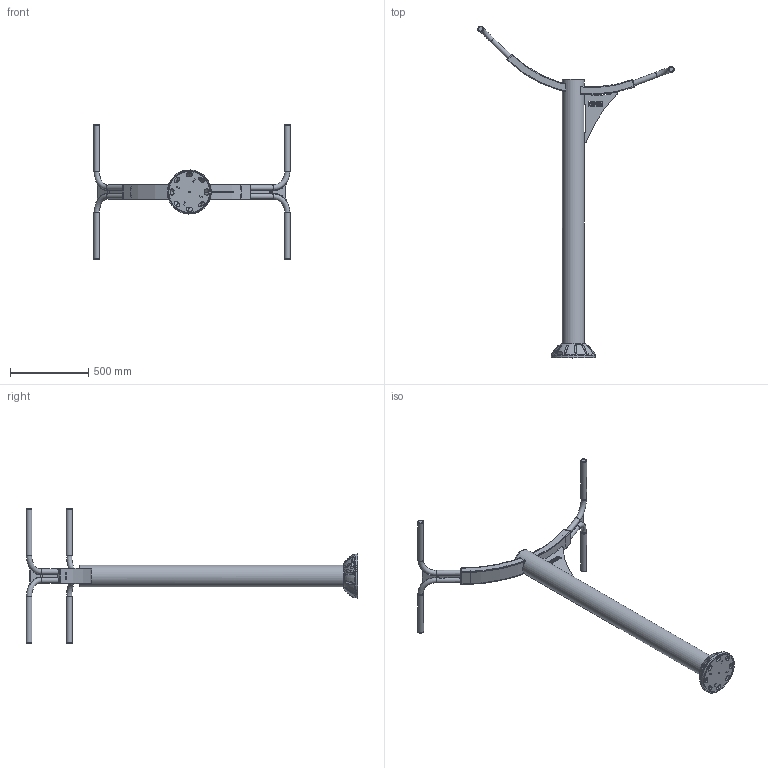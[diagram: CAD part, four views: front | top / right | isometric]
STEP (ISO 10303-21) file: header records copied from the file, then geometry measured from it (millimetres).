
FILE_DESCRIPTION (( 'STEP AP214' ), '1' );
FILE_NAME ('M0307A - TRACTION BRAS DOUBLE V2.1.STEP', '2017-03-02T22:04:56', ( '' ), ( '' ), 'SwSTEP 2.0', 'SolidWorks 2016', '' );
FILE_SCHEMA (( 'AUTOMOTIVE_DESIGN' ));
Length unit declared in the file: millimetre
Products named in the file (18): PU-TRETRAV873 - Tube rectangulaire cintré R750 100x50x3 L873 V1.0_Traction bras double; PU-TDRPOI.A - Tole renfort poignées traction bras V2.0; PU-TDRFIT225 - Tole renfort tube rectangulaire cintré R750 V1.0; PU-TOLGOPL - Gousset platine V2.0; PU-TROCP - Tube cintré poignée d33,7 RM100 90° V1.0; TROCOB-M0307A.B - Colonne base Traction Bras Double L1760 V2.1_Colonne base Duo traction bras double; SC0304 - CACHE PLATINE ASS V4.0; SCH1806.A - Chapeau D135 V1.0; TDRENT-M0307 - Entretoise placement tubes Traction Bras V1.0; SB0112 - Vis Torx teton central M8x20_M8x20; SC0304 - Demi cache platine D140 V4.0; PLATINE BASE ASS V2.0_RAL7012; SP0607 - Poignee plastique D.33,7 L=300; PU-TOLPLAT - Platine base V1.0; BATI-M0307A - TRACTION BRAS DOUBLE V2.1; M0307A - TRACTION BRAS DOUBLE V2.1; SCH1804 - Chapeau 97x47 2 trous D34,7 V1.0; ENSPOI-M0307 - POIGNEES TRACTION BRAS ASS V1.0
Assembly tree (26 placements, depth 4):
  M0307A - TRACTION BRAS DOUBLE V2.1
    BATI-M0307A - TRACTION BRAS DOUBLE V2.1
      TROCOB-M0307A.B - Colonne base Traction Bras Double L1760 V2.1_Colonne base Duo traction bras double
      SCH1806.A - Chapeau D135 V1.0
      ENSPOI-M0307 - POIGNEES TRACTION BRAS ASS V1.0  x2
        PU-TROCP - Tube cintré poignée d33,7 RM100 90° V1.0
        PU-TDRPOI.A - Tole renfort poignées traction bras V2.0
        SCH1804 - Chapeau 97x47 2 trous D34,7 V1.0
        TDRENT-M0307 - Entretoise placement tubes Traction Bras V1.0
      PU-TDRFIT225 - Tole renfort tube rectangulaire cintré R750 V1.0
      PLATINE BASE ASS V2.0_RAL7012
        PU-TOLPLAT - Platine base V1.0
        PU-TOLGOPL - Gousset platine V2.0  x4
      PU-TRETRAV873 - Tube rectangulaire cintré R750 100x50x3 L873 V1.0_Traction bras double
    SP0607 - Poignee plastique D.33,7 L=300  x4
    SC0304 - CACHE PLATINE ASS V4.0
      SC0304 - Demi cache platine D140 V4.0
      SB0112 - Vis Torx teton central M8x20_M8x20  x2
Bounding box: 1251.75 x 2115.75 x 859.93 mm (x, y, z)
Volume: 5598668.8 mm3; surface area: 3262380.5 mm2
Topology: 27 solids, 27 shells, 874 faces, 2252 edges, 1458 vertices
Faces by surface type: plane 312, bspline 282, cylinder 206, cone 36, torus 34, sphere 4
Full cylindrical faces by diameter (mm): 1.8 x2, 6.647 x2, 6.95 x2, 8 x2, 9.3 x2, 10 x1, 10.5 x4, 27.9 x8, 33.7 x12, 133.7 x1, 134.7 x1, 139.7 x1, 260 x1
Entity records: 91343 total; most frequent: CARTESIAN_POINT 75476, ORIENTED_EDGE 3494, DIRECTION 2542, EDGE_CURVE 1747, VERTEX_POINT 1151, AXIS2_PLACEMENT_3D 925, EDGE_LOOP 842, FACE_OUTER_BOUND 739
